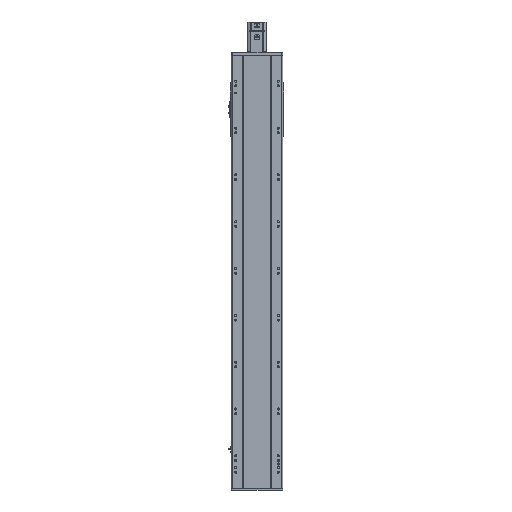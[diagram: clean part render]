
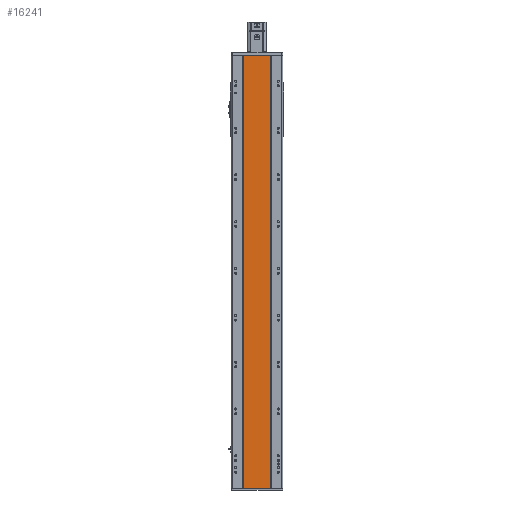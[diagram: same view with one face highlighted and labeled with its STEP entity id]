
A CAD part, front view. The second image highlights one B-rep face of the part: STEP entity #16241.
In plain terms, the highlighted planar face has unit normal (0, -1, 0).
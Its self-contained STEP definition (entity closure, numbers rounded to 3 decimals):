
#25 = DIRECTION ( 'NONE',  ( 1., 0., 0. ) ) ;
#3211 = CARTESIAN_POINT ( 'NONE',  ( 59., 1., 925.5 ) ) ;
#6276 = CARTESIAN_POINT ( 'NONE',  ( -59., 1., 925.5 ) ) ;
#6931 = VERTEX_POINT ( 'NONE', #14048 ) ;
#8197 = DIRECTION ( 'NONE',  ( 0., 0., -1. ) ) ;
#8537 = EDGE_CURVE ( 'NONE', #6931, #35427, #13834, .T. ) ;
#12434 = CARTESIAN_POINT ( 'NONE',  ( -59., 1., 925.5 ) ) ;
#12583 = ORIENTED_EDGE ( 'NONE', *, *, #38319, .T. ) ;
#13834 = LINE ( 'NONE', #3211, #20239 ) ;
#14048 = CARTESIAN_POINT ( 'NONE',  ( 59., 1., 925.5 ) ) ;
#14516 = LINE ( 'NONE', #20179, #29811 ) ;
#16241 = ADVANCED_FACE ( 'NONE', ( #35817 ), #31357, .F. ) ;
#18882 = CARTESIAN_POINT ( 'NONE',  ( -59., 1., 925.5 ) ) ;
#20179 = CARTESIAN_POINT ( 'NONE',  ( -59., 1., 925.5 ) ) ;
#20239 = VECTOR ( 'NONE', #24768, 1000. ) ;
#21121 = LINE ( 'NONE', #32463, #39930 ) ;
#23188 = DIRECTION ( 'NONE',  ( 1., 0., 0. ) ) ;
#24352 = ORIENTED_EDGE ( 'NONE', *, *, #30965, .T. ) ;
#24377 = VERTEX_POINT ( 'NONE', #6276 ) ;
#24477 = CARTESIAN_POINT ( 'NONE',  ( 59., 1., -925.5 ) ) ;
#24768 = DIRECTION ( 'NONE',  ( 0., 0., -1. ) ) ;
#25059 = LINE ( 'NONE', #18882, #31479 ) ;
#27534 = VERTEX_POINT ( 'NONE', #30156 ) ;
#28862 = ORIENTED_EDGE ( 'NONE', *, *, #8537, .F. ) ;
#29811 = VECTOR ( 'NONE', #8197, 1000. ) ;
#30156 = CARTESIAN_POINT ( 'NONE',  ( -59., 1., -925.5 ) ) ;
#30965 = EDGE_CURVE ( 'NONE', #27534, #35427, #21121, .T. ) ;
#31212 = EDGE_CURVE ( 'NONE', #24377, #6931, #25059, .T. ) ;
#31357 = PLANE ( 'NONE',  #34692 ) ;
#31479 = VECTOR ( 'NONE', #25, 1000. ) ;
#32057 = EDGE_LOOP ( 'NONE', ( #24352, #28862, #40035, #12583 ) ) ;
#32463 = CARTESIAN_POINT ( 'NONE',  ( -59., 1., -925.5 ) ) ;
#34692 = AXIS2_PLACEMENT_3D ( 'NONE', #12434, #41068, #37616 ) ;
#35427 = VERTEX_POINT ( 'NONE', #24477 ) ;
#35817 = FACE_OUTER_BOUND ( 'NONE', #32057, .T. ) ;
#37616 = DIRECTION ( 'NONE',  ( -1., 0., 0. ) ) ;
#38319 = EDGE_CURVE ( 'NONE', #24377, #27534, #14516, .T. ) ;
#39930 = VECTOR ( 'NONE', #23188, 1000. ) ;
#40035 = ORIENTED_EDGE ( 'NONE', *, *, #31212, .F. ) ;
#41068 = DIRECTION ( 'NONE',  ( 0., 1., 0. ) ) ;
